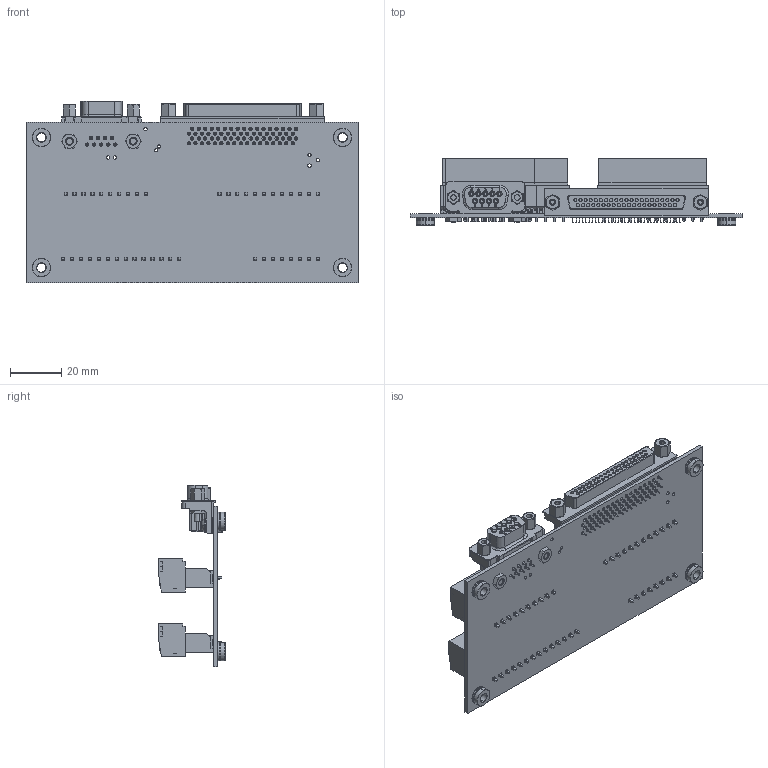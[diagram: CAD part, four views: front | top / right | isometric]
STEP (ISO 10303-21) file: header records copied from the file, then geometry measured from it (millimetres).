
FILE_DESCRIPTION (( 'STEP AP214' ), '1' );
FILE_NAME ('PT-E01628_REV_B.STEP', '2014-01-23T15:38:31', ( '' ), ( '' ), 'SwSTEP 2.0', 'SolidWorks 2011', '' );
FILE_SCHEMA (( 'AUTOMOTIVE_DESIGN' ));
Length unit declared in the file: millimetre
Products named in the file (21): PT-M00812_DEFAULT; PT-M02238_DEFAULT; PT-E00121; PEM SMTSO-M3-3; G4 BREAK OUT BOARD - LABEL 4; G4 BREAK OUT BOARD - LABEL 3; G4 BREAK OUT BOARD - LABEL 1; G4 BREAK OUT BOARD - LABEL 2; G4 BREAK OUT BOARD - PLUG IN CONNECTOR 12 WAY A; G4 BREAK OUT BOARD - PLUG IN CONNECTOR 10 WAY A; G4 BREAK OUT BOARD - PLUG IN CONNECTOR 8 WAY; G4 BREAK OUT BOARD - PLUG IN CONNECTOR 12 WAY; G4 BREAK OUT BOARD - PLUG IN CONNECTOR 14 WAY11; G4 BREAK OUT BOARD - PLUG IN CONNECTOR 10 WAY; PCS-XE_68_LFD_TN_CONN; G4 BREAK OUT BOARD - PLUG IN CONNECTOR 8 WAY A; G4 BREAK OUT BOARD - PLUG IN CONNECTOR 14 WAY A; C-5745781-04-3; PT-E01574; PT-E01628_REV_B; Hex Thin Nut Chamfered GradeAB_BSI
Assembly tree (27 placements, depth 2):
  PT-E01628_REV_B
    Hex Thin Nut Chamfered GradeAB_BSI  x2
    PT-E01574
    PT-M00812_DEFAULT  x2
    PT-E00121  x2
    G4 BREAK OUT BOARD - PLUG IN CONNECTOR 12 WAY
    PCS-XE_68_LFD_TN_CONN
    G4 BREAK OUT BOARD - PLUG IN CONNECTOR 8 WAY
    G4 BREAK OUT BOARD - PLUG IN CONNECTOR 14 WAY11
    G4 BREAK OUT BOARD - LABEL 3
    PEM SMTSO-M3-3  x4
    G4 BREAK OUT BOARD - LABEL 4
    G4 BREAK OUT BOARD - PLUG IN CONNECTOR 8 WAY A
    PT-M02238_DEFAULT  x2
    G4 BREAK OUT BOARD - LABEL 1
    G4 BREAK OUT BOARD - PLUG IN CONNECTOR 10 WAY
    G4 BREAK OUT BOARD - PLUG IN CONNECTOR 14 WAY A
    C-5745781-04-3
    G4 BREAK OUT BOARD - PLUG IN CONNECTOR 12 WAY A
    G4 BREAK OUT BOARD - LABEL 2
    G4 BREAK OUT BOARD - PLUG IN CONNECTOR 10 WAY A
Bounding box: 130 x 26 x 71.23 mm (x, y, z)
Volume: 54511 mm3; surface area: 53131 mm2
Topology: 27 solids, 27 shells, 5424 faces, 14401 edges, 9450 vertices
Faces by surface type: plane 3930, cylinder 1040, bspline 326, cone 84, sphere 28, torus 16
Entity records: 224756 total; most frequent: CARTESIAN_POINT 49530, ORIENTED_EDGE 27894, DIRECTION 24152, EDGE_CURVE 13947, VECTOR 10902, LINE 10902, VERTEX_POINT 9187, AXIS2_PLACEMENT_3D 6625
